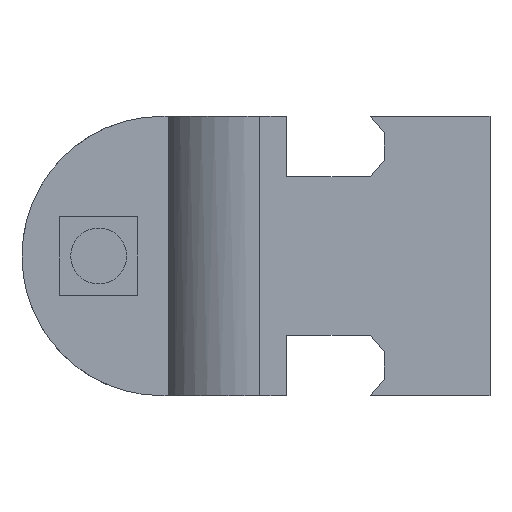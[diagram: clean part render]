
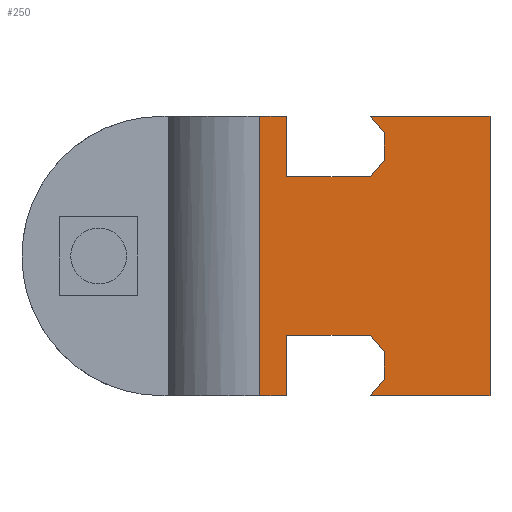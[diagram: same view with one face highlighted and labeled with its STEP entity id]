
A CAD part, front view. The second image highlights one B-rep face of the part: STEP entity #250.
In plain terms, the highlighted planar face has unit normal (0, -1, 0).
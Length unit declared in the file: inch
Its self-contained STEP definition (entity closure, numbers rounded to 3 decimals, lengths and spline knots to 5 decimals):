
#250=ADVANCED_FACE('',(#501),#502,.T.);
#501=FACE_OUTER_BOUND('',#906,.T.);
#502=PLANE('',#907);
#906=EDGE_LOOP('',(#1708,#1709,#1710,#1711,#1712,#1713,#1714,#1715,#1716,#1717,#1718,#1719,#1720,#1721,#1722,#1723));
#907=AXIS2_PLACEMENT_3D('',#1724,#1725,#1726);
#1708=ORIENTED_EDGE('',*,*,#2176,.T.);
#1709=ORIENTED_EDGE('',*,*,#2144,.T.);
#1710=ORIENTED_EDGE('',*,*,#2186,.T.);
#1711=ORIENTED_EDGE('',*,*,#2187,.T.);
#1712=ORIENTED_EDGE('',*,*,#2188,.T.);
#1713=ORIENTED_EDGE('',*,*,#2038,.T.);
#1714=ORIENTED_EDGE('',*,*,#2189,.T.);
#1715=ORIENTED_EDGE('',*,*,#2065,.F.);
#1716=ORIENTED_EDGE('',*,*,#2043,.T.);
#1717=ORIENTED_EDGE('',*,*,#2184,.T.);
#1718=ORIENTED_EDGE('',*,*,#2105,.T.);
#1719=ORIENTED_EDGE('',*,*,#2169,.T.);
#1720=ORIENTED_EDGE('',*,*,#2190,.T.);
#1721=ORIENTED_EDGE('',*,*,#2191,.T.);
#1722=ORIENTED_EDGE('',*,*,#2152,.T.);
#1723=ORIENTED_EDGE('',*,*,#2158,.T.);
#1724=CARTESIAN_POINT('',(1.41054,0.26594,0.0));
#1725=DIRECTION('',(0.0,-1.0,0.0));
#1726=DIRECTION('',(1.0,0.0,-0.0));
#2038=EDGE_CURVE('',#2342,#2340,#2343,.T.);
#2043=EDGE_CURVE('',#2351,#2349,#2352,.T.);
#2065=EDGE_CURVE('',#2351,#2384,#2388,.T.);
#2105=EDGE_CURVE('',#2452,#2450,#2453,.T.);
#2144=EDGE_CURVE('',#2516,#2514,#2517,.T.);
#2152=EDGE_CURVE('',#2528,#2526,#2529,.T.);
#2158=EDGE_CURVE('',#2526,#2534,#2536,.T.);
#2169=EDGE_CURVE('',#2450,#2549,#2551,.T.);
#2176=EDGE_CURVE('',#2534,#2516,#2559,.T.);
#2184=EDGE_CURVE('',#2349,#2452,#2569,.T.);
#2186=EDGE_CURVE('',#2514,#2571,#2572,.T.);
#2187=EDGE_CURVE('',#2571,#2573,#2574,.T.);
#2188=EDGE_CURVE('',#2573,#2342,#2575,.T.);
#2189=EDGE_CURVE('',#2340,#2384,#2576,.T.);
#2190=EDGE_CURVE('',#2549,#2577,#2578,.T.);
#2191=EDGE_CURVE('',#2577,#2528,#2579,.T.);
#2340=VERTEX_POINT('',#2848);
#2342=VERTEX_POINT('',#2851);
#2343=LINE('',#2852,#2853);
#2349=VERTEX_POINT('',#2861);
#2351=VERTEX_POINT('',#2864);
#2352=LINE('',#2865,#2866);
#2384=VERTEX_POINT('',#2937);
#2388=LINE('',#2945,#2946);
#2450=VERTEX_POINT('',#3044);
#2452=VERTEX_POINT('',#3047);
#2453=LINE('',#3048,#3049);
#2514=VERTEX_POINT('',#3174);
#2516=VERTEX_POINT('',#3177);
#2517=LINE('',#3178,#3179);
#2526=VERTEX_POINT('',#3194);
#2528=VERTEX_POINT('',#3197);
#2529=LINE('',#3198,#3199);
#2534=VERTEX_POINT('',#3206);
#2536=LINE('',#3209,#3210);
#2549=VERTEX_POINT('',#3258);
#2551=LINE('',#3261,#3262);
#2559=LINE('',#3272,#3273);
#2569=LINE('',#3287,#3288);
#2571=VERTEX_POINT('',#3290);
#2572=LINE('',#3291,#3292);
#2573=VERTEX_POINT('',#3293);
#2574=LINE('',#3294,#3295);
#2575=LINE('',#3296,#3297);
#2576=LINE('',#3298,#3299);
#2577=VERTEX_POINT('',#3300);
#2578=LINE('',#3301,#3302);
#2579=LINE('',#3303,#3304);
#2848=CARTESIAN_POINT('',(1.01571,0.26594,1.24989));
#2851=CARTESIAN_POINT('',(1.01571,0.26594,0.97994));
#2852=CARTESIAN_POINT('',(1.01571,0.26594,0.55746));
#2853=VECTOR('',#3526,1.0);
#2861=CARTESIAN_POINT('',(1.01571,0.26594,0.00009));
#2864=CARTESIAN_POINT('',(0.89499,0.26594,0.00009));
#2865=CARTESIAN_POINT('',(1.07332,0.26594,0.00009));
#2866=VECTOR('',#3530,1.0);
#2937=CARTESIAN_POINT('',(0.89499,0.26594,1.24989));
#2945=CARTESIAN_POINT('',(0.89499,0.26594,0.0));
#2946=VECTOR('',#3543,1.0);
#3044=CARTESIAN_POINT('',(1.39065,0.26594,0.27005));
#3047=CARTESIAN_POINT('',(1.01571,0.26594,0.27005));
#3048=CARTESIAN_POINT('',(1.30686,0.26594,0.27005));
#3049=VECTOR('',#3572,1.0);
#3174=CARTESIAN_POINT('',(1.45313,0.26594,1.17739));
#3177=CARTESIAN_POINT('',(1.39065,0.26594,1.24989));
#3178=CARTESIAN_POINT('',(1.71955,0.26594,0.86822));
#3179=VECTOR('',#3601,1.0);
#3194=CARTESIAN_POINT('',(1.92609,0.26594,0.00009));
#3197=CARTESIAN_POINT('',(1.39065,0.26594,0.00009));
#3198=CARTESIAN_POINT('',(1.54835,0.26594,0.00009));
#3199=VECTOR('',#3606,1.0);
#3206=CARTESIAN_POINT('',(1.92609,0.26594,1.24989));
#3209=CARTESIAN_POINT('',(1.92609,0.26594,0.0));
#3210=VECTOR('',#3610,1.0);
#3258=CARTESIAN_POINT('',(1.45313,0.26594,0.19755));
#3261=CARTESIAN_POINT('',(1.47728,0.26594,0.16952));
#3262=VECTOR('',#3614,1.0);
#3272=CARTESIAN_POINT('',(1.54835,0.26594,1.24989));
#3273=VECTOR('',#3617,1.0);
#3287=CARTESIAN_POINT('',(1.01571,0.26594,0.06754));
#3288=VECTOR('',#3622,1.0);
#3290=CARTESIAN_POINT('',(1.45313,0.26594,1.05244));
#3291=CARTESIAN_POINT('',(1.45313,0.26594,0.55746));
#3292=VECTOR('',#3623,1.0);
#3293=CARTESIAN_POINT('',(1.39065,0.26594,0.97994));
#3294=CARTESIAN_POINT('',(1.16821,0.26594,0.72181));
#3295=VECTOR('',#3624,1.0);
#3296=CARTESIAN_POINT('',(1.30686,0.26594,0.97994));
#3297=VECTOR('',#3625,1.0);
#3298=CARTESIAN_POINT('',(1.07332,0.26594,1.24989));
#3299=VECTOR('',#3626,1.0);
#3300=CARTESIAN_POINT('',(1.45313,0.26594,0.07259));
#3301=CARTESIAN_POINT('',(1.45313,0.26594,0.06754));
#3302=VECTOR('',#3627,1.0);
#3303=CARTESIAN_POINT('',(1.41049,0.26594,0.02311));
#3304=VECTOR('',#3628,1.0);
#3526=DIRECTION('',(0.0,0.0,1.0));
#3530=DIRECTION('',(1.0,0.0,0.0));
#3543=DIRECTION('',(0.0,0.0,1.0));
#3572=DIRECTION('',(1.0,0.0,0.0));
#3601=DIRECTION('',(0.653,-0.0,-0.758));
#3606=DIRECTION('',(1.0,0.0,0.0));
#3610=DIRECTION('',(0.0,0.0,1.0));
#3614=DIRECTION('',(0.653,-0.0,-0.758));
#3617=DIRECTION('',(-1.0,0.0,0.0));
#3622=DIRECTION('',(0.0,0.0,1.0));
#3623=DIRECTION('',(0.0,-0.0,-1.0));
#3624=DIRECTION('',(-0.653,0.0,-0.758));
#3625=DIRECTION('',(-1.0,0.0,0.0));
#3626=DIRECTION('',(-1.0,0.0,0.0));
#3627=DIRECTION('',(0.0,-0.0,-1.0));
#3628=DIRECTION('',(-0.653,0.0,-0.758));
